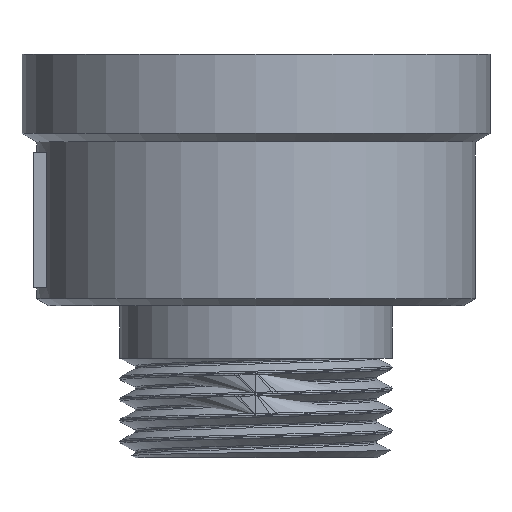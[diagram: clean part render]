
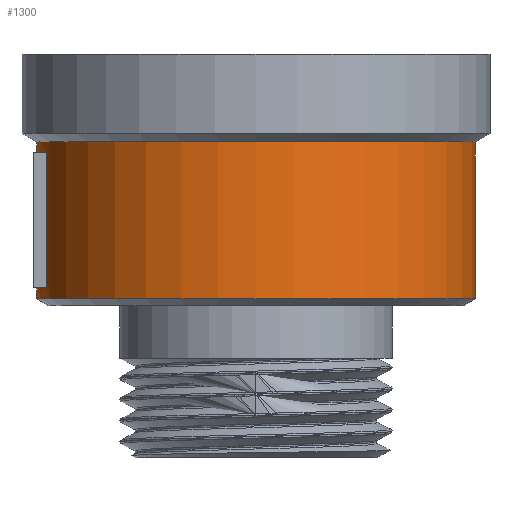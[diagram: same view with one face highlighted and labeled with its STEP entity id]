
A CAD part, front view. The second image highlights one B-rep face of the part: STEP entity #1300.
In plain terms, the highlighted cylindrical face has radius 18.75 mm (diameter 37.5 mm), a full revolution.
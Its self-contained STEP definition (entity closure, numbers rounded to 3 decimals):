
#37=LINE('',#1789,#118);
#92=LINE('',#1970,#173);
#93=LINE('',#1979,#174);
#118=VECTOR('',#1493,10.);
#173=VECTOR('',#1588,10.);
#174=VECTOR('',#1599,18.75);
#199=CYLINDRICAL_SURFACE('',#1402,18.75);
#226=FACE_BOUND('',#370,.T.);
#290=FACE_OUTER_BOUND('',#369,.T.);
#369=EDGE_LOOP('',(#1014,#1015,#1016,#1017,#1018,#1019));
#370=EDGE_LOOP('',(#1020,#1021,#1022,#1023));
#428=CIRCLE('',#1389,18.75);
#429=CIRCLE('',#1391,18.75);
#430=CIRCLE('',#1403,18.75);
#431=CIRCLE('',#1404,18.75);
#432=CIRCLE('',#1405,18.75);
#433=CIRCLE('',#1406,18.75);
#546=VERTEX_POINT('',#1787);
#547=VERTEX_POINT('',#1788);
#581=VERTEX_POINT('',#1910);
#582=VERTEX_POINT('',#1914);
#590=VERTEX_POINT('',#1974);
#591=VERTEX_POINT('',#1975);
#592=VERTEX_POINT('',#1978);
#593=VERTEX_POINT('',#1980);
#681=EDGE_CURVE('',#546,#547,#37,.T.);
#726=EDGE_CURVE('',#581,#546,#428,.T.);
#728=EDGE_CURVE('',#547,#582,#429,.T.);
#746=EDGE_CURVE('',#582,#581,#92,.T.);
#747=EDGE_CURVE('',#590,#591,#430,.T.);
#748=EDGE_CURVE('',#591,#590,#431,.T.);
#749=EDGE_CURVE('',#591,#592,#93,.T.);
#750=EDGE_CURVE('',#592,#593,#432,.T.);
#751=EDGE_CURVE('',#593,#592,#433,.T.);
#1014=ORIENTED_EDGE('',*,*,#747,.F.);
#1015=ORIENTED_EDGE('',*,*,#748,.F.);
#1016=ORIENTED_EDGE('',*,*,#749,.T.);
#1017=ORIENTED_EDGE('',*,*,#750,.T.);
#1018=ORIENTED_EDGE('',*,*,#751,.T.);
#1019=ORIENTED_EDGE('',*,*,#749,.F.);
#1020=ORIENTED_EDGE('',*,*,#728,.T.);
#1021=ORIENTED_EDGE('',*,*,#746,.T.);
#1022=ORIENTED_EDGE('',*,*,#726,.T.);
#1023=ORIENTED_EDGE('',*,*,#681,.T.);
#1300=ADVANCED_FACE('',(#290,#226),#199,.T.);
#1389=AXIS2_PLACEMENT_3D('',#1911,#1550,#1551);
#1391=AXIS2_PLACEMENT_3D('',#1915,#1555,#1556);
#1402=AXIS2_PLACEMENT_3D('',#1973,#1593,#1594);
#1403=AXIS2_PLACEMENT_3D('',#1976,#1595,#1596);
#1404=AXIS2_PLACEMENT_3D('',#1977,#1597,#1598);
#1405=AXIS2_PLACEMENT_3D('',#1981,#1600,#1601);
#1406=AXIS2_PLACEMENT_3D('',#1982,#1602,#1603);
#1493=DIRECTION('',(0.,0.,1.));
#1550=DIRECTION('center_axis',(0.,0.,-1.));
#1551=DIRECTION('ref_axis',(0.,-1.,0.));
#1555=DIRECTION('center_axis',(0.,0.,1.));
#1556=DIRECTION('ref_axis',(0.,-1.,0.));
#1588=DIRECTION('',(0.,0.,-1.));
#1593=DIRECTION('center_axis',(0.,0.,1.));
#1594=DIRECTION('ref_axis',(0.,-1.,0.));
#1595=DIRECTION('center_axis',(0.,0.,1.));
#1596=DIRECTION('ref_axis',(1.,0.,0.));
#1597=DIRECTION('center_axis',(0.,0.,1.));
#1598=DIRECTION('ref_axis',(1.,0.,0.));
#1599=DIRECTION('',(0.,0.,-1.));
#1600=DIRECTION('center_axis',(0.,0.,1.));
#1601=DIRECTION('ref_axis',(1.,0.,0.));
#1602=DIRECTION('center_axis',(0.,0.,1.));
#1603=DIRECTION('ref_axis',(1.,0.,0.));
#1787=CARTESIAN_POINT('',(-17.778,5.828,14.65));
#1788=CARTESIAN_POINT('',(-17.778,5.828,26.244));
#1789=CARTESIAN_POINT('',(-17.778,5.828,20.423));
#1910=CARTESIAN_POINT('',(-17.913,-5.672,14.65));
#1911=CARTESIAN_POINT('Origin',(0.,-0.132,14.65));
#1914=CARTESIAN_POINT('',(-17.913,-5.672,26.244));
#1915=CARTESIAN_POINT('Origin',(0.,-0.132,26.244));
#1970=CARTESIAN_POINT('',(-17.913,-5.672,20.423));
#1973=CARTESIAN_POINT('Origin',(0.,-0.132,20.423));
#1974=CARTESIAN_POINT('',(0.,-18.882,27.126));
#1975=CARTESIAN_POINT('',(0.,18.618,27.126));
#1976=CARTESIAN_POINT('Origin',(0.,-0.132,27.126));
#1977=CARTESIAN_POINT('Origin',(0.,-0.132,27.126));
#1978=CARTESIAN_POINT('',(0.,18.618,13.72));
#1979=CARTESIAN_POINT('',(0.,18.618,20.423));
#1980=CARTESIAN_POINT('',(0.,-18.882,13.72));
#1981=CARTESIAN_POINT('Origin',(0.,-0.132,13.72));
#1982=CARTESIAN_POINT('Origin',(0.,-0.132,13.72));
